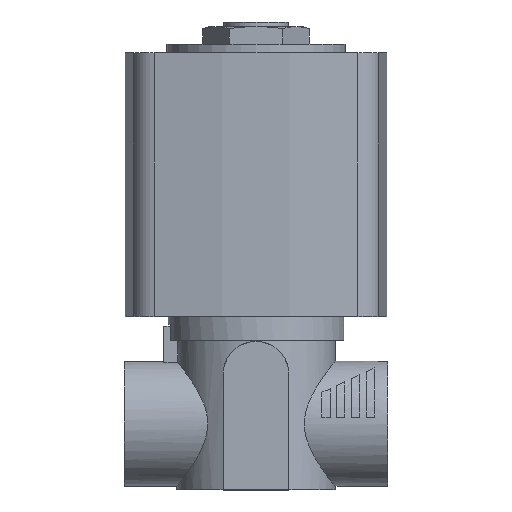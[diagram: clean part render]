
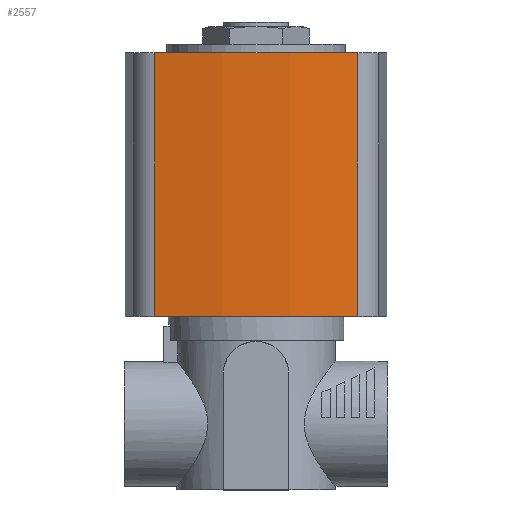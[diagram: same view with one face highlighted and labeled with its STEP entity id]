
A CAD part, top view. The second image highlights one B-rep face of the part: STEP entity #2557.
In plain terms, the highlighted cylindrical face has radius 80 mm (diameter 160 mm), a partial arc.
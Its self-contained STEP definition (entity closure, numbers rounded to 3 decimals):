
#224=LINE('',#3801,#345);
#225=LINE('',#3805,#346);
#345=VECTOR('',#3195,1000.);
#346=VECTOR('',#3200,1000.);
#675=ORIENTED_EDGE('',*,*,#1019,.T.);
#676=ORIENTED_EDGE('',*,*,#1020,.F.);
#677=ORIENTED_EDGE('',*,*,#1006,.F.);
#678=ORIENTED_EDGE('',*,*,#1018,.T.);
#1006=EDGE_CURVE('',#1209,#1210,#1315,.T.);
#1018=EDGE_CURVE('',#1209,#1216,#224,.T.);
#1019=EDGE_CURVE('',#1216,#1217,#1323,.T.);
#1020=EDGE_CURVE('',#1210,#1217,#225,.T.);
#1209=VERTEX_POINT('',#3777);
#1210=VERTEX_POINT('',#3779);
#1216=VERTEX_POINT('',#3800);
#1217=VERTEX_POINT('',#3804);
#1315=CIRCLE('',#2740,80.);
#1323=CIRCLE('',#2753,80.);
#1449=EDGE_LOOP('',(#675,#676,#677,#678));
#1603=FACE_BOUND('',#1449,.T.);
#1680=CYLINDRICAL_SURFACE('',#2752,80.);
#2557=ADVANCED_FACE('',(#1603),#1680,.T.);
#2740=AXIS2_PLACEMENT_3D('',#3778,#3167,#3168);
#2752=AXIS2_PLACEMENT_3D('',#3802,#3196,#3197);
#2753=AXIS2_PLACEMENT_3D('',#3803,#3198,#3199);
#3167=DIRECTION('',(0.,1.,0.));
#3168=DIRECTION('',(1.,0.,0.));
#3195=DIRECTION('',(0.,-1.,0.));
#3196=DIRECTION('',(0.,-1.,0.));
#3197=DIRECTION('',(0.,0.,-1.));
#3198=DIRECTION('',(0.,1.,0.));
#3199=DIRECTION('',(1.,0.,0.));
#3200=DIRECTION('',(0.,-1.,0.));
#3777=CARTESIAN_POINT('',(21.99,14.,15.472));
#3778=CARTESIAN_POINT('',(-56.5,14.,0.));
#3779=CARTESIAN_POINT('',(21.99,14.,-15.472));
#3800=CARTESIAN_POINT('',(21.99,-26.,15.472));
#3801=CARTESIAN_POINT('',(21.99,14.,15.472));
#3802=CARTESIAN_POINT('',(-56.5,14.,0.));
#3803=CARTESIAN_POINT('',(-56.5,-26.,0.));
#3804=CARTESIAN_POINT('',(21.99,-26.,-15.472));
#3805=CARTESIAN_POINT('',(21.99,14.,-15.472));
